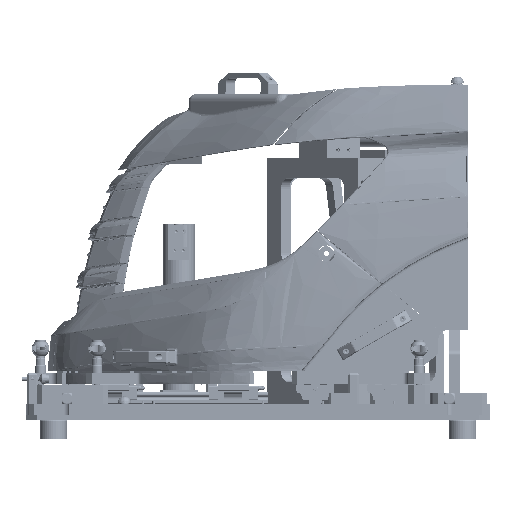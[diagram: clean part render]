
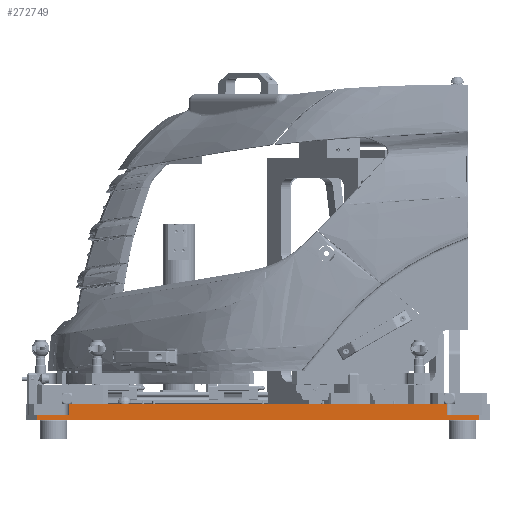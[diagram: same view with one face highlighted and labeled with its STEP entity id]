
A CAD part, front view. The second image highlights one B-rep face of the part: STEP entity #272749.
In plain terms, the highlighted planar face has unit normal (0, -1, 0).
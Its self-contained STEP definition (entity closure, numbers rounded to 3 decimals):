
#272699=AXIS2_PLACEMENT_3D('Plane Axis2P3D',#272696,#272697,#272698) ;
#268903=CARTESIAN_POINT('Vertex',(-1010.,-1102.,219.)) ;
#268936=CARTESIAN_POINT('Vertex',(-200.,-1102.,219.)) ;
#268939=CARTESIAN_POINT('Line Origine',(-605.,-1102.,219.)) ;
#270806=CARTESIAN_POINT('Vertex',(-258.66,-1102.,249.)) ;
#270888=CARTESIAN_POINT('Vertex',(-951.34,-1102.,249.)) ;
#270891=CARTESIAN_POINT('Line Origine',(-605.,-1102.,249.)) ;
#272696=CARTESIAN_POINT('Axis2P3D Location',(-180.,-1102.,249.)) ;
#272701=CARTESIAN_POINT('Line Origine',(-951.34,-1102.,239.)) ;
#272705=CARTESIAN_POINT('Vertex',(-951.34,-1102.,229.)) ;
#272708=CARTESIAN_POINT('Line Origine',(-980.67,-1102.,229.)) ;
#272712=CARTESIAN_POINT('Vertex',(-1010.,-1102.,229.)) ;
#272715=CARTESIAN_POINT('Line Origine',(-1010.,-1102.,224.)) ;
#272720=CARTESIAN_POINT('Line Origine',(-200.,-1102.,224.)) ;
#272724=CARTESIAN_POINT('Vertex',(-200.,-1102.,229.)) ;
#272727=CARTESIAN_POINT('Line Origine',(-229.33,-1102.,229.)) ;
#272731=CARTESIAN_POINT('Vertex',(-258.66,-1102.,229.)) ;
#272734=CARTESIAN_POINT('Line Origine',(-258.66,-1102.,239.)) ;
#268940=DIRECTION('Vector Direction',(-1.,0.,0.)) ;
#270892=DIRECTION('Vector Direction',(-1.,0.,0.)) ;
#272697=DIRECTION('Axis2P3D Direction',(-0.,-1.,-0.)) ;
#272698=DIRECTION('Axis2P3D XDirection',(-1.,0.,0.)) ;
#272702=DIRECTION('Vector Direction',(0.,0.,1.)) ;
#272709=DIRECTION('Vector Direction',(-1.,0.,0.)) ;
#272716=DIRECTION('Vector Direction',(0.,0.,-1.)) ;
#272721=DIRECTION('Vector Direction',(0.,0.,-1.)) ;
#272728=DIRECTION('Vector Direction',(1.,0.,0.)) ;
#272735=DIRECTION('Vector Direction',(0.,0.,-1.)) ;
#268941=VECTOR('Line Direction',#268940,1.) ;
#270893=VECTOR('Line Direction',#270892,1.) ;
#272703=VECTOR('Line Direction',#272702,1.) ;
#272710=VECTOR('Line Direction',#272709,1.) ;
#272717=VECTOR('Line Direction',#272716,1.) ;
#272722=VECTOR('Line Direction',#272721,1.) ;
#272729=VECTOR('Line Direction',#272728,1.) ;
#272736=VECTOR('Line Direction',#272735,1.) ;
#272740=ORIENTED_EDGE('',*,*,#270895,.F.) ;
#272741=ORIENTED_EDGE('',*,*,#272707,.F.) ;
#272742=ORIENTED_EDGE('',*,*,#272714,.T.) ;
#272743=ORIENTED_EDGE('',*,*,#272719,.T.) ;
#272744=ORIENTED_EDGE('',*,*,#268943,.F.) ;
#272745=ORIENTED_EDGE('',*,*,#272726,.F.) ;
#272746=ORIENTED_EDGE('',*,*,#272733,.F.) ;
#272747=ORIENTED_EDGE('',*,*,#272738,.F.) ;
#272749=ADVANCED_FACE('ANFERTIGUNGSTEILE.1\\GRUNDPLATTE.1\\PartBody',(#272748),#272700,.T.) ;
#268943=EDGE_CURVE('',#268937,#268904,#268942,.T.) ;
#270895=EDGE_CURVE('',#270889,#270807,#270894,.F.) ;
#272707=EDGE_CURVE('',#272706,#270889,#272704,.T.) ;
#272714=EDGE_CURVE('',#272706,#272713,#272711,.T.) ;
#272719=EDGE_CURVE('',#272713,#268904,#272718,.T.) ;
#272726=EDGE_CURVE('',#272725,#268937,#272723,.T.) ;
#272733=EDGE_CURVE('',#272732,#272725,#272730,.T.) ;
#272738=EDGE_CURVE('',#270807,#272732,#272737,.T.) ;
#272739=EDGE_LOOP('',(#272740,#272741,#272742,#272743,#272744,#272745,#272746,#272747)) ;
#272748=FACE_OUTER_BOUND('',#272739,.T.) ;
#268942=LINE('Line',#268939,#268941) ;
#270894=LINE('Line',#270891,#270893) ;
#272704=LINE('Line',#272701,#272703) ;
#272711=LINE('Line',#272708,#272710) ;
#272718=LINE('Line',#272715,#272717) ;
#272723=LINE('Line',#272720,#272722) ;
#272730=LINE('Line',#272727,#272729) ;
#272737=LINE('Line',#272734,#272736) ;
#272700=PLANE('',#272699) ;
#268904=VERTEX_POINT('',#268903) ;
#268937=VERTEX_POINT('',#268936) ;
#270807=VERTEX_POINT('',#270806) ;
#270889=VERTEX_POINT('',#270888) ;
#272706=VERTEX_POINT('',#272705) ;
#272713=VERTEX_POINT('',#272712) ;
#272725=VERTEX_POINT('',#272724) ;
#272732=VERTEX_POINT('',#272731) ;
